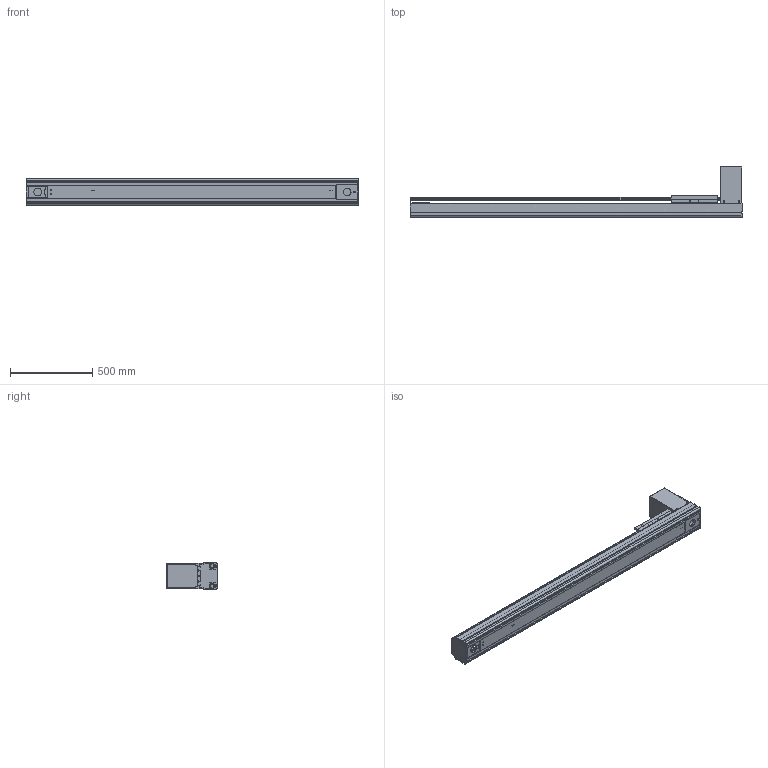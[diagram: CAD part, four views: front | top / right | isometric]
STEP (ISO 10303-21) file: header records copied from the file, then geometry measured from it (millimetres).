
FILE_DESCRIPTION((''),'2;1');
FILE_NAME('BE50G-BT-L19N-E5_IGS_PRT','2017-06-18T',(' '),(''),'PRO/ENGINEER BY PARAMETRIC TECHNOLOGY CORPORATION, 2015030','PRO/ENGINEER BY PARAMETRIC TECHNOLOGY CORPORATION, 2015030','');
FILE_SCHEMA(('CONFIG_CONTROL_DESIGN'));
Products named in the file (1): BE50G-BT-L19N-E5_IGS_PRT
Bounding box: 2020 x 309 x 160 mm (x, y, z)
Volume: 8034933.7 mm3; surface area: 3682103.2 mm2
Topology: 9 solids, 162 shells, 1991 faces, 5633 edges, 3752 vertices
Faces by surface type: cylinder 1009, plane 789, cone 150, sphere 23, torus 20
Entity records: 67451 total; most frequent: CARTESIAN_POINT 15059, DIRECTION 10995, ORIENTED_EDGE 10514, EDGE_CURVE 5559, AXIS2_PLACEMENT_3D 4124, VERTEX_POINT 3752, VECTOR 2747, LINE 2747
